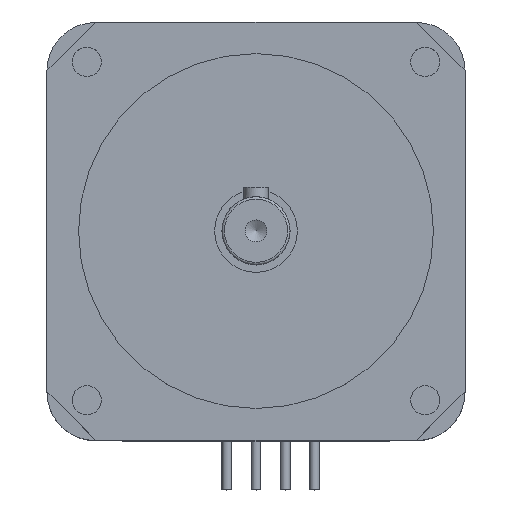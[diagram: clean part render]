
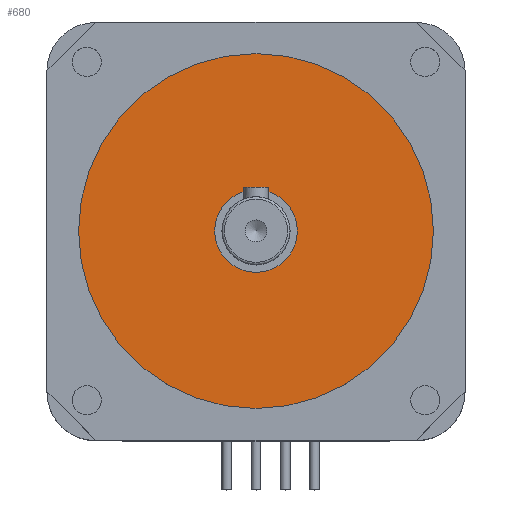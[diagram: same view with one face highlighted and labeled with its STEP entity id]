
A CAD part, top view. The second image highlights one B-rep face of the part: STEP entity #680.
In plain terms, the highlighted planar face has unit normal (0, 0, 1).
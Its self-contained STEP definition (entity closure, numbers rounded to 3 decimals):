
#601=PLANE('',#2259);
#680=ADVANCED_FACE('',(#860,#861),#601,.F.);
#860=FACE_BOUND('',#916,.T.);
#861=FACE_BOUND('',#917,.T.);
#916=EDGE_LOOP('',(#1077));
#917=EDGE_LOOP('',(#1078));
#1077=ORIENTED_EDGE('',*,*,#1863,.F.);
#1078=ORIENTED_EDGE('',*,*,#1854,.F.);
#1650=VERTEX_POINT('',#3119);
#1659=VERTEX_POINT('',#3201);
#1854=EDGE_CURVE('',#1650,#1650,#2147,.T.);
#1863=EDGE_CURVE('',#1659,#1659,#2152,.T.);
#2147=CIRCLE('',#2247,8.5);
#2152=CIRCLE('',#2256,36.5);
#2247=AXIS2_PLACEMENT_3D('',#3118,#2475,#2476);
#2256=AXIS2_PLACEMENT_3D('',#3200,#2495,#2496);
#2259=AXIS2_PLACEMENT_3D('',#3205,#2501,#2502);
#2475=DIRECTION('',(0.,0.,1.));
#2476=DIRECTION('',(1.,0.,0.));
#2495=DIRECTION('',(0.,0.,-1.));
#2496=DIRECTION('',(1.,0.,0.));
#2501=DIRECTION('',(0.,0.,-1.));
#2502=DIRECTION('',(-1.,0.,0.));
#3118=CARTESIAN_POINT('',(0.,0.,2.5));
#3119=CARTESIAN_POINT('',(8.5,0.,2.5));
#3200=CARTESIAN_POINT('',(0.,0.,2.5));
#3201=CARTESIAN_POINT('',(36.5,0.,2.5));
#3205=CARTESIAN_POINT('',(0.,0.,2.5));
